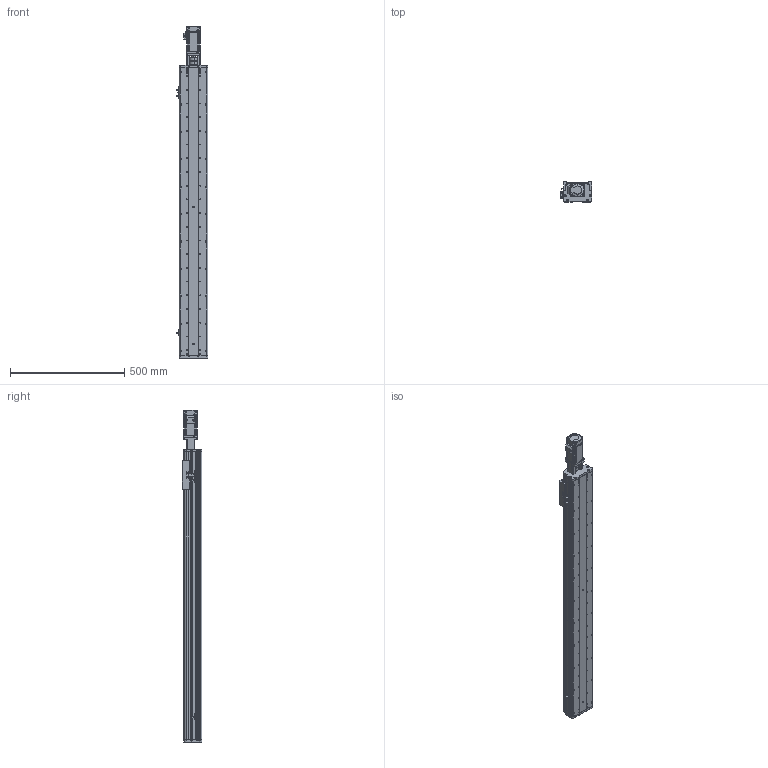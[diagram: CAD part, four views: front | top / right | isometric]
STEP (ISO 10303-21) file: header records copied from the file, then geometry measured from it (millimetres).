
FILE_DESCRIPTION (( 'STEP AP214' ), '1' );
FILE_NAME ('KSD125S-S1050-MT-CM.STEP', '2017-08-07T06:52:38', ( '微软用户' ), ( '微软中国' ), 'SwSTEP 2.0', 'SolidWorks 2014', '' );
FILE_SCHEMA (( 'AUTOMOTIVE_DESIGN' ));
Length unit declared in the file: millimetre
Products named in the file (13): U倰嫖萇假蚾璃; U倰嫖萇EEㄜSX672; ヶ傷啣-125遵耀郪; KSD125S-1050俴最佪裝菁啣; KSD125-賑雄釱1; KSD125S-1050俴最佪裝滅鳥裔; CS-34X32-10X14; 125-帣傷啣1; KSD125S-S1050-MT-CM; MHMD042G1CA_2_03; 100遵鎮湛假蚾啣1 ; 拸萇儂釱滅袉菜; 覜茼え68遵圉猾敕
Assembly tree (16 placements, depth 2):
  KSD125S-S1050-MT-CM
    125-帣傷啣1
    CS-34X32-10X14
    KSD125-賑雄釱1
    ヶ傷啣-125遵耀郪
    U倰嫖萇EEㄜSX672  x3
    U倰嫖萇假蚾璃  x3
    覜茼え68遵圉猾敕
    拸萇儂釱滅袉菜
    100遵鎮湛假蚾啣1 
    MHMD042G1CA_2_03
    KSD125S-1050俴最佪裝菁啣
    KSD125S-1050俴最佪裝滅鳥裔
Bounding box: 138.7 x 86 x 1453.5 mm (x, y, z)
Volume: 4037011.3 mm3; surface area: 1322560.8 mm2
Topology: 15 solids, 18 shells, 1608 faces, 4646 edges, 3059 vertices
Faces by surface type: cylinder 846, plane 649, cone 91, bspline 22
Entity records: 57139 total; most frequent: CARTESIAN_POINT 11934, DIRECTION 8220, ORIENTED_EDGE 7800, EDGE_CURVE 3978, AXIS2_PLACEMENT_3D 3059, VERTEX_POINT 2651, VECTOR 2102, LINE 2102
